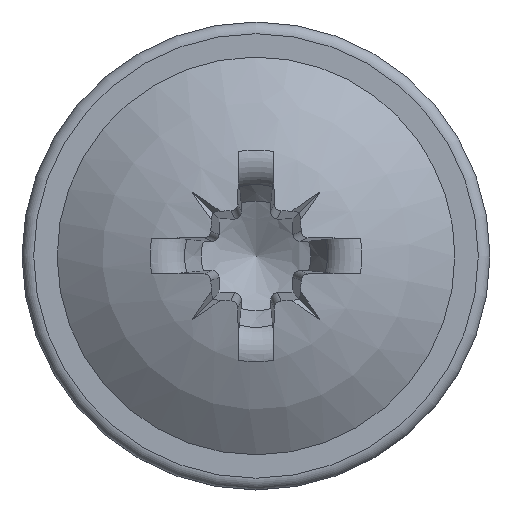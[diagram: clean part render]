
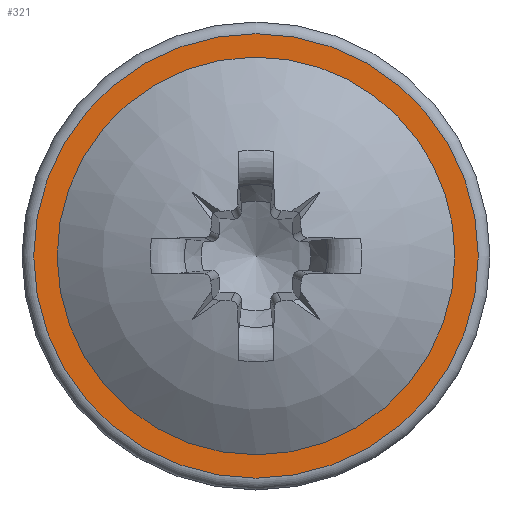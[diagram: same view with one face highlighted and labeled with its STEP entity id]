
A CAD part, top view. The second image highlights one B-rep face of the part: STEP entity #321.
In plain terms, the highlighted planar face has unit normal (0, 0, 1).
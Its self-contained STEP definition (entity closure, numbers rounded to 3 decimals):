
#91=PLANE('',#1800);
#295=FACE_BOUND('',#543,.T.);
#296=FACE_BOUND('',#544,.T.);
#321=ADVANCED_FACE('',(#295,#296),#91,.F.);
#543=EDGE_LOOP('',(#782));
#544=EDGE_LOOP('',(#783));
#650=CIRCLE('',#1758,4.25);
#685=CIRCLE('',#1799,4.75);
#782=ORIENTED_EDGE('',*,*,#1449,.T.);
#783=ORIENTED_EDGE('',*,*,#1398,.F.);
#1236=VERTEX_POINT('',#3316);
#1285=VERTEX_POINT('',#3638);
#1398=EDGE_CURVE('',#1236,#1236,#650,.T.);
#1449=EDGE_CURVE('',#1285,#1285,#685,.T.);
#1758=AXIS2_PLACEMENT_3D('',#3315,#1869,#1870);
#1799=AXIS2_PLACEMENT_3D('',#3637,#1952,#1953);
#1800=AXIS2_PLACEMENT_3D('',#3639,#1954,#1955);
#1869=DIRECTION('',(0.,0.,1.));
#1870=DIRECTION('',(1.,0.,0.));
#1952=DIRECTION('',(0.,0.,1.));
#1953=DIRECTION('',(-1.,0.,0.));
#1954=DIRECTION('',(0.,0.,-1.));
#1955=DIRECTION('',(-1.,0.,0.));
#3315=CARTESIAN_POINT('',(0.,0.,1.));
#3316=CARTESIAN_POINT('',(4.25,0.,1.));
#3637=CARTESIAN_POINT('',(0.,0.,1.));
#3638=CARTESIAN_POINT('',(-4.75,0.,1.));
#3639=CARTESIAN_POINT('',(0.,5.,1.));
